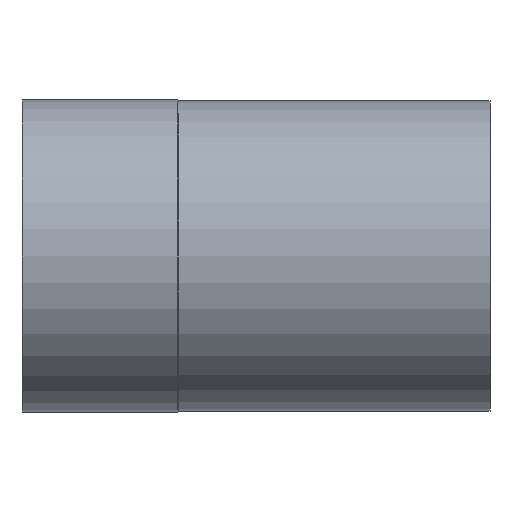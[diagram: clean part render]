
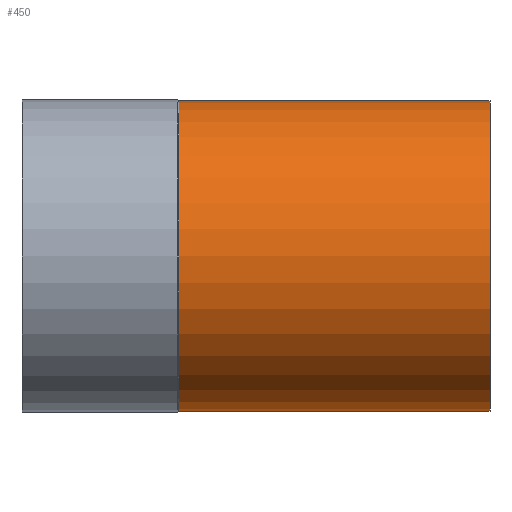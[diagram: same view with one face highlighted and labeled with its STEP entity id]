
A CAD part, left-side view. The second image highlights one B-rep face of the part: STEP entity #450.
In plain terms, the highlighted cylindrical face has radius 3.98 mm (diameter 7.96 mm), a partial arc.
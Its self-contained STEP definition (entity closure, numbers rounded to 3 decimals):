
#122 = CARTESIAN_POINT ( 'NONE',  ( 0., 7.98, 3.98 ) ) ;
#123 = CARTESIAN_POINT ( 'NONE',  ( 0., 7.98, -3.98 ) ) ;
#337 = ORIENTED_EDGE ( 'NONE', *, *, #347, .F. ) ;
#339 = EDGE_CURVE ( 'NONE', #721, #720, #871, .T. ) ;
#340 = ORIENTED_EDGE ( 'NONE', *, *, #444, .F. ) ;
#347 = EDGE_CURVE ( 'NONE', #721, #352, #952, .T. ) ;
#350 = EDGE_CURVE ( 'NONE', #720, #354, #943, .T. ) ;
#352 = VERTEX_POINT ( 'NONE', #939 ) ;
#354 = VERTEX_POINT ( 'NONE', #938 ) ;
#437 = ORIENTED_EDGE ( 'NONE', *, *, #339, .T. ) ;
#438 = ORIENTED_EDGE ( 'NONE', *, *, #350, .T. ) ;
#444 = EDGE_CURVE ( 'NONE', #352, #354, #1225, .T. ) ;
#445 = EDGE_LOOP ( 'NONE', ( #337, #437, #438, #340 ) ) ;
#450 = ADVANCED_FACE ( 'NONE', ( #1087 ), #1086, .T. ) ;
#720 = VERTEX_POINT ( 'NONE', #123 ) ;
#721 = VERTEX_POINT ( 'NONE', #122 ) ;
#868 = DIRECTION ( 'NONE',  ( 0., 0., -1. ) ) ;
#869 = DIRECTION ( 'NONE',  ( 0., -1., 0. ) ) ;
#870 = AXIS2_PLACEMENT_3D ( 'NONE', #877, #869, #868 ) ;
#871 = CIRCLE ( 'NONE', #870, 3.98 ) ;
#877 = CARTESIAN_POINT ( 'NONE',  ( 0., 7.98, 0. ) ) ;
#938 = CARTESIAN_POINT ( 'NONE',  ( 0., 0., -3.98 ) ) ;
#939 = CARTESIAN_POINT ( 'NONE',  ( 0., 0., 3.98 ) ) ;
#940 = DIRECTION ( 'NONE',  ( 0., -1., 0. ) ) ;
#941 = VECTOR ( 'NONE', #940, 1000. ) ;
#942 = CARTESIAN_POINT ( 'NONE',  ( 0., -20.255, -3.98 ) ) ;
#943 = LINE ( 'NONE', #942, #941 ) ;
#949 = DIRECTION ( 'NONE',  ( 0., -1., 0. ) ) ;
#950 = VECTOR ( 'NONE', #949, 1000. ) ;
#951 = CARTESIAN_POINT ( 'NONE',  ( 0., -20.255, 3.98 ) ) ;
#952 = LINE ( 'NONE', #951, #950 ) ;
#1081 = DIRECTION ( 'NONE',  ( 0., 0., -1. ) ) ;
#1082 = DIRECTION ( 'NONE',  ( 0., -1., 0. ) ) ;
#1083 = CARTESIAN_POINT ( 'NONE',  ( 0., -20.255, 0. ) ) ;
#1084 = AXIS2_PLACEMENT_3D ( 'NONE', #1083, #1082, #1081 ) ;
#1086 = CYLINDRICAL_SURFACE ( 'NONE', #1084, 3.98 ) ;
#1087 = FACE_OUTER_BOUND ( 'NONE', #445, .T. ) ;
#1221 = DIRECTION ( 'NONE',  ( 0., 0., -1. ) ) ;
#1222 = DIRECTION ( 'NONE',  ( 0., -1., 0. ) ) ;
#1223 = CARTESIAN_POINT ( 'NONE',  ( 0., 0., 0. ) ) ;
#1224 = AXIS2_PLACEMENT_3D ( 'NONE', #1223, #1222, #1221 ) ;
#1225 = CIRCLE ( 'NONE', #1224, 3.98 ) ;
